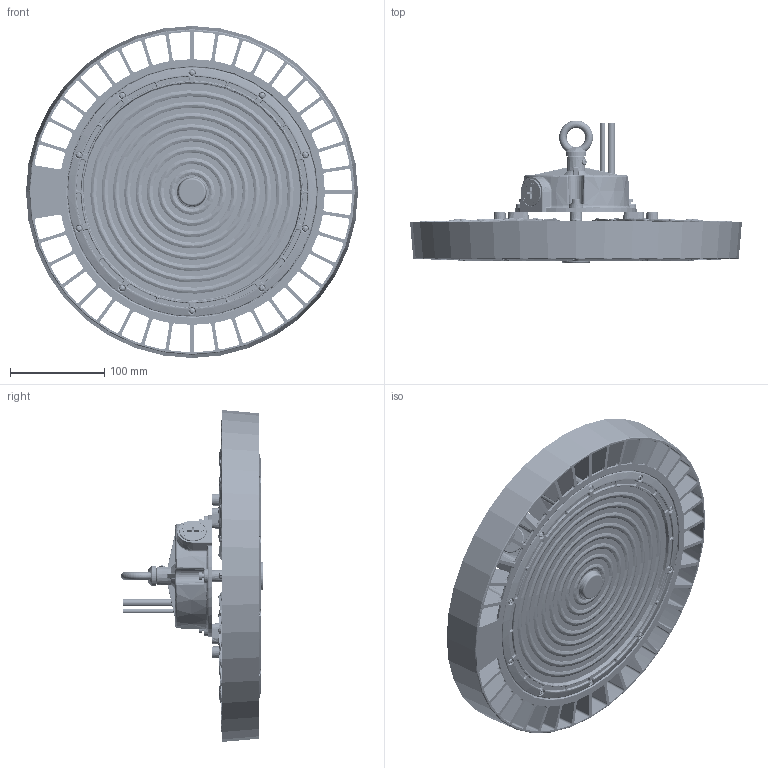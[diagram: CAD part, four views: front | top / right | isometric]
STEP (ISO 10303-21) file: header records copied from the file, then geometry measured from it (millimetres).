
FILE_DESCRIPTION((''),'2;1');
FILE_NAME('UFO-200N_ASM_4_ASM','2026-04-30T17:05:38',('Administrator'),(''),'CREO PARAMETRIC BY PTC INC, 2024063','CREO PARAMETRIC BY PTC INC, 2024063','');
FILE_SCHEMA(('CONFIG_CONTROL_DESIGN'));
Length unit declared in the file: millimetre
Products named in the file (294): UFO-200N_1; M5X1_HXQ_2; PG7-12_7; DK265-GGX-GJQ_1_1; DK265-GGX-PCB_5_2_1; DK265-GGX-PCB_5_2_2; DK265-GGX-PCB_5_2_3; DK265-GGX-PCB_5_2_4; DK265-GGX-PCB_5_2_5; DK265-GGX-PCB_5_2_6; DK265-GGX-PCB_5_2_7; DK265-GGX-PCB_5_2_8; DK265-GGX-PCB_5_2_9; DK265-GGX-PCB_5_2_10; DK265-GGX-PCB_5_2_11; DK265-GGX-PCB_5_2_12; DK265-GGX-PCB_5_2_13; DK265-GGX-PCB_5_2_14; DK265-GGX-PCB_5_2_15; DK265-GGX-PCB_5_2_16; DK265-GGX-PCB_5_2_17; DK265-GGX-PCB_5_2_18; DK265-GGX-PCB_5_2_19; DK265-GGX-PCB_5_2_20; DK265-GGX-PCB_5_2_21; DK265-GGX-PCB_5_2_22; DK265-GGX-PCB_5_2_23; DK265-GGX-PCB_5_2_24; DK265-GGX-PCB_5_2_25; DK265-GGX-PCB_5_2_26; DK265-GGX-PCB_5_2_27; DK265-GGX-PCB_5_2_28; DK265-GGX-PCB_5_2_29; DK265-GGX-PCB_5_2_30; DK265-GGX-PCB_5_2_31; DK265-GGX-PCB_5_2_32; DK265-GGX-PCB_5_2_33; DK265-GGX-PCB_5_2_34; DK265-GGX-PCB_5_2_35; DK265-GGX-PCB_5_2_36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
Assembly tree (312 placements, depth 5):
  UFO-200N_ASM_4_ASM
    UFO-200N_1
    M5X1_HXQ_2
    PG7-12_7
    DK265-GGX_ASM_ASM_1_ASM
      DK-265-120-LENS-J-NN1_ASM_12_AS_ASM
        DK265-GGX-GJQ_1_1
        DK265-GGX-PCB_5_2_ASM
          DK265-GGX-PCB_5_2_1
          DK265-GGX-PCB_5_2_2
          DK265-GGX-PCB_5_2_3
          DK265-GGX-PCB_5_2_4
          DK265-GGX-PCB_5_2_5
          DK265-GGX-PCB_5_2_6
          DK265-GGX-PCB_5_2_7
          DK265-GGX-PCB_5_2_8
          DK265-GGX-PCB_5_2_9
          DK265-GGX-PCB_5_2_10
          DK265-GGX-PCB_5_2_11
          DK265-GGX-PCB_5_2_12
          DK265-GGX-PCB_5_2_13
          DK265-GGX-PCB_5_2_14
          DK265-GGX-PCB_5_2_15
          DK265-GGX-PCB_5_2_16
          DK265-GGX-PCB_5_2_17
          DK265-GGX-PCB_5_2_18
          DK265-GGX-PCB_5_2_19
          DK265-GGX-PCB_5_2_20
          DK265-GGX-PCB_5_2_21
          DK265-GGX-PCB_5_2_22
          DK265-GGX-PCB_5_2_23
          DK265-GGX-PCB_5_2_24
          DK265-GGX-PCB_5_2_25
          DK265-GGX-PCB_5_2_26
          DK265-GGX-PCB_5_2_27
          DK265-GGX-PCB_5_2_28
          DK265-GGX-PCB_5_2_29
          DK265-GGX-PCB_5_2_30
          DK265-GGX-PCB_5_2_31
          DK265-GGX-PCB_5_2_32
          DK265-GGX-PCB_5_2_33
          DK265-GGX-PCB_5_2_34
          DK265-GGX-PCB_5_2_35
          DK265-GGX-PCB_5_2_36
          DK265-GGX-PCB_5_2_37
          DK265-GGX-PCB_5_2_38
          DK265-GGX-PCB_5_2_39
          DK265-GGX-PCB_5_2_40
          DK265-GGX-PCB_5_2_41
          DK265-GGX-PCB_5_2_42
          DK265-GGX-PCB_5_2_43
          DK265-GGX-PCB_5_2_44
          DK265-GGX-PCB_5_2_45
          DK265-GGX-PCB_5_2_46
          DK265-GGX-PCB_5_2_47
          DK265-GGX-PCB_5_2_48
          DK265-GGX-PCB_5_2_49
          DK265-GGX-PCB_5_2_50
          DK265-GGX-PCB_5_2_51
          DK265-GGX-PCB_5_2_52
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Bounding box: 353 x 151.9 x 353 mm (x, y, z)
Volume: 1050637.6 mm3; surface area: 875115.5 mm2
Topology: 313 solids, 316 shells, 8385 faces, 20258 edges, 12380 vertices
Faces by surface type: plane 3002, cylinder 1767, bspline 1336, torus 1067, cone 847, sphere 237, revolution 68, extrusion 61
Entity records: 399918 total; most frequent: CARTESIAN_POINT 226898, ORIENTED_EDGE 35854, DIRECTION 33931, EDGE_CURVE 17936, AXIS2_PLACEMENT_3D 13204, VERTEX_POINT 11049, EDGE_LOOP 7907, FACE_OUTER_BOUND 7604
